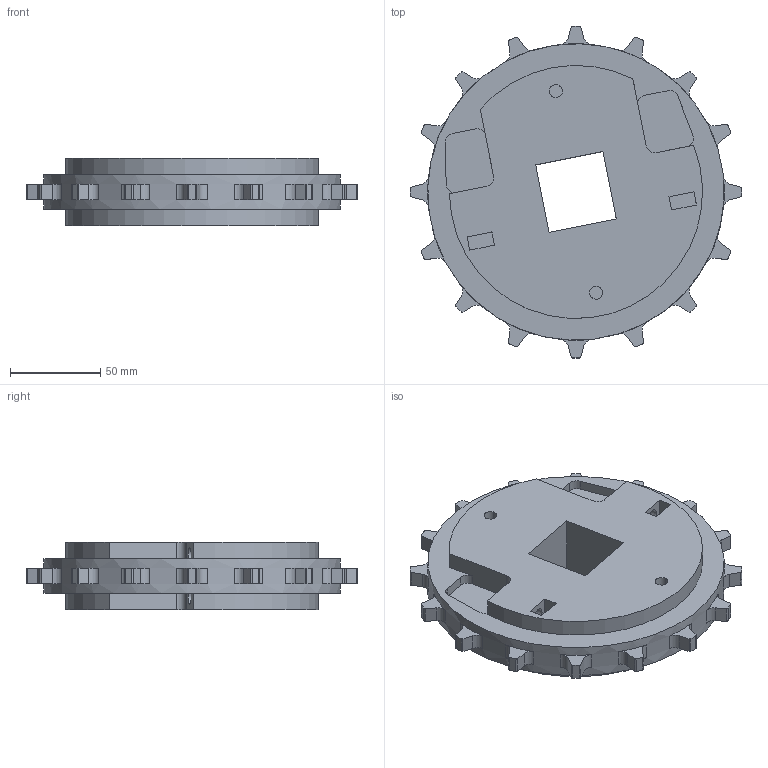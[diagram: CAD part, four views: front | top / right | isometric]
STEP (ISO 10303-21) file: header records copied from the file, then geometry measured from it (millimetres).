
FILE_DESCRIPTION((''),'2;1');
FILE_NAME('S1200_SPLIT_74_SQ','2008-12-12T',('jmumphre'),(''),'PRO/ENGINEER BY PARAMETRIC TECHNOLOGY CORPORATION, 2008150','PRO/ENGINEER BY PARAMETRIC TECHNOLOGY CORPORATION, 2008150','');
FILE_SCHEMA(('CONFIG_CONTROL_DESIGN'));
Length unit declared in the file: inch
Products named in the file (1): S1200_SPLIT_74_SQ
Bounding box: 184.33 x 184.33 x 37.59 mm (x, y, z)
Volume: 594595.4 mm3; surface area: 75867.1 mm2
Topology: 1 solids, 1 shells, 228 faces, 606 edges, 404 vertices
Faces by surface type: plane 130, cylinder 98
Entity records: 7218 total; most frequent: DIRECTION 1290, CARTESIAN_POINT 1238, ORIENTED_EDGE 1212, EDGE_CURVE 606, AXIS2_PLACEMENT_3D 456, VERTEX_POINT 404, VECTOR 378, LINE 378
